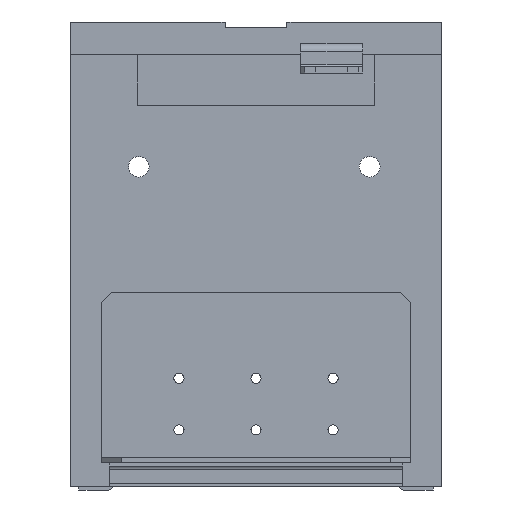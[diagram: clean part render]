
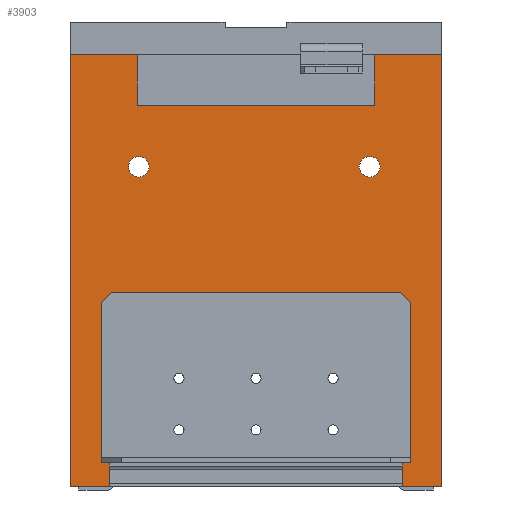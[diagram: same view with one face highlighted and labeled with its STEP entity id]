
A CAD part, left-side view. The second image highlights one B-rep face of the part: STEP entity #3903.
In plain terms, the highlighted planar face has unit normal (-1, 0, 0).
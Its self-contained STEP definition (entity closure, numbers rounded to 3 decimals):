
#1263=AXIS2_PLACEMENT_3D('Circle Axis2P3D',#1261,#1262,$) ;
#1289=AXIS2_PLACEMENT_3D('Circle Axis2P3D',#1287,#1288,$) ;
#1320=AXIS2_PLACEMENT_3D('Circle Axis2P3D',#1318,#1319,$) ;
#1346=AXIS2_PLACEMENT_3D('Circle Axis2P3D',#1344,#1345,$) ;
#3849=AXIS2_PLACEMENT_3D('Plane Axis2P3D',#3846,#3847,#3848) ;
#341=CARTESIAN_POINT('Vertex',(-418.1,-90.,209.18)) ;
#344=CARTESIAN_POINT('Line Origine',(-418.1,-90.,104.59)) ;
#348=CARTESIAN_POINT('Vertex',(-418.1,-90.,0.)) ;
#650=CARTESIAN_POINT('Vertex',(-418.1,71.,0.)) ;
#653=CARTESIAN_POINT('Line Origine',(-418.1,80.5,0.)) ;
#657=CARTESIAN_POINT('Vertex',(-418.1,90.,0.)) ;
#763=CARTESIAN_POINT('Vertex',(-418.1,71.,1.5)) ;
#766=CARTESIAN_POINT('Line Origine',(-418.1,71.,0.75)) ;
#907=CARTESIAN_POINT('Line Origine',(-418.1,0.,1.5)) ;
#911=CARTESIAN_POINT('Vertex',(-418.1,-71.,1.5)) ;
#949=CARTESIAN_POINT('Vertex',(-418.1,-71.,0.)) ;
#952=CARTESIAN_POINT('Line Origine',(-418.1,-71.,0.75)) ;
#982=CARTESIAN_POINT('Vertex',(-418.1,57.4,209.18)) ;
#985=CARTESIAN_POINT('Line Origine',(-418.1,57.4,196.93)) ;
#989=CARTESIAN_POINT('Vertex',(-418.1,57.4,184.68)) ;
#1040=CARTESIAN_POINT('Line Origine',(-418.1,0.,184.68)) ;
#1044=CARTESIAN_POINT('Vertex',(-418.1,-57.4,184.68)) ;
#1258=CARTESIAN_POINT('Vertex',(-418.1,56.759,159.9)) ;
#1261=CARTESIAN_POINT('Axis2P3D Location',(-418.1,56.759,154.9)) ;
#1265=CARTESIAN_POINT('Vertex',(-418.1,56.759,149.9)) ;
#1287=CARTESIAN_POINT('Axis2P3D Location',(-418.1,56.759,154.9)) ;
#1315=CARTESIAN_POINT('Vertex',(-418.1,-55.059,159.9)) ;
#1318=CARTESIAN_POINT('Axis2P3D Location',(-418.1,-55.059,154.9)) ;
#1322=CARTESIAN_POINT('Vertex',(-418.1,-55.059,149.9)) ;
#1344=CARTESIAN_POINT('Axis2P3D Location',(-418.1,-55.059,154.9)) ;
#1722=CARTESIAN_POINT('Vertex',(-418.1,75.,11.6)) ;
#1725=CARTESIAN_POINT('Line Origine',(-418.1,0.,11.6)) ;
#1729=CARTESIAN_POINT('Vertex',(-418.1,-75.,11.6)) ;
#1898=CARTESIAN_POINT('Vertex',(-418.1,-75.,89.1)) ;
#1922=CARTESIAN_POINT('Line Origine',(-418.1,-75.,50.35)) ;
#3050=CARTESIAN_POINT('Vertex',(-418.1,-70.,94.1)) ;
#3053=CARTESIAN_POINT('Line Origine',(-418.1,0.,94.1)) ;
#3057=CARTESIAN_POINT('Vertex',(-418.1,70.,94.1)) ;
#3077=CARTESIAN_POINT('Line Origine',(-418.1,-72.5,91.6)) ;
#3089=CARTESIAN_POINT('Line Origine',(-418.1,75.,50.35)) ;
#3093=CARTESIAN_POINT('Vertex',(-418.1,75.,89.1)) ;
#3115=CARTESIAN_POINT('Line Origine',(-418.1,72.5,91.6)) ;
#3597=CARTESIAN_POINT('Line Origine',(-418.1,-57.4,196.93)) ;
#3601=CARTESIAN_POINT('Vertex',(-418.1,-57.4,209.18)) ;
#3846=CARTESIAN_POINT('Axis2P3D Location',(-418.1,0.,209.18)) ;
#3851=CARTESIAN_POINT('Line Origine',(-418.1,73.7,209.18)) ;
#3855=CARTESIAN_POINT('Vertex',(-418.1,90.,209.18)) ;
#3858=CARTESIAN_POINT('Line Origine',(-418.1,90.,104.59)) ;
#3863=CARTESIAN_POINT('Line Origine',(-418.1,-80.5,0.)) ;
#3868=CARTESIAN_POINT('Line Origine',(-418.1,-73.7,209.18)) ;
#345=DIRECTION('Vector Direction',(0.,0.,-1.)) ;
#654=DIRECTION('Vector Direction',(0.,1.,0.)) ;
#767=DIRECTION('Vector Direction',(0.,0.,1.)) ;
#908=DIRECTION('Vector Direction',(0.,1.,0.)) ;
#953=DIRECTION('Vector Direction',(0.,0.,1.)) ;
#986=DIRECTION('Vector Direction',(0.,0.,-1.)) ;
#1041=DIRECTION('Vector Direction',(0.,1.,0.)) ;
#1262=DIRECTION('Axis2P3D Direction',(-1.,0.,0.)) ;
#1288=DIRECTION('Axis2P3D Direction',(-1.,0.,0.)) ;
#1319=DIRECTION('Axis2P3D Direction',(-1.,0.,0.)) ;
#1345=DIRECTION('Axis2P3D Direction',(-1.,0.,0.)) ;
#1726=DIRECTION('Vector Direction',(0.,1.,0.)) ;
#1923=DIRECTION('Vector Direction',(0.,0.,-1.)) ;
#3054=DIRECTION('Vector Direction',(0.,1.,0.)) ;
#3078=DIRECTION('Vector Direction',(0.,-0.707,-0.707)) ;
#3090=DIRECTION('Vector Direction',(0.,0.,-1.)) ;
#3116=DIRECTION('Vector Direction',(0.,0.707,-0.707)) ;
#3598=DIRECTION('Vector Direction',(0.,0.,1.)) ;
#3847=DIRECTION('Axis2P3D Direction',(1.,-0.,0.)) ;
#3848=DIRECTION('Axis2P3D XDirection',(0.,0.,-1.)) ;
#3852=DIRECTION('Vector Direction',(0.,1.,0.)) ;
#3859=DIRECTION('Vector Direction',(0.,0.,-1.)) ;
#3864=DIRECTION('Vector Direction',(0.,1.,0.)) ;
#3869=DIRECTION('Vector Direction',(0.,1.,0.)) ;
#346=VECTOR('Line Direction',#345,1.) ;
#655=VECTOR('Line Direction',#654,1.) ;
#768=VECTOR('Line Direction',#767,1.) ;
#909=VECTOR('Line Direction',#908,1.) ;
#954=VECTOR('Line Direction',#953,1.) ;
#987=VECTOR('Line Direction',#986,1.) ;
#1042=VECTOR('Line Direction',#1041,1.) ;
#1727=VECTOR('Line Direction',#1726,1.) ;
#1924=VECTOR('Line Direction',#1923,1.) ;
#3055=VECTOR('Line Direction',#3054,1.) ;
#3079=VECTOR('Line Direction',#3078,1.) ;
#3091=VECTOR('Line Direction',#3090,1.) ;
#3117=VECTOR('Line Direction',#3116,1.) ;
#3599=VECTOR('Line Direction',#3598,1.) ;
#3853=VECTOR('Line Direction',#3852,1.) ;
#3860=VECTOR('Line Direction',#3859,1.) ;
#3865=VECTOR('Line Direction',#3864,1.) ;
#3870=VECTOR('Line Direction',#3869,1.) ;
#3874=ORIENTED_EDGE('',*,*,#3603,.T.) ;
#3875=ORIENTED_EDGE('',*,*,#1046,.T.) ;
#3876=ORIENTED_EDGE('',*,*,#991,.T.) ;
#3877=ORIENTED_EDGE('',*,*,#3857,.T.) ;
#3878=ORIENTED_EDGE('',*,*,#3862,.F.) ;
#3879=ORIENTED_EDGE('',*,*,#659,.F.) ;
#3880=ORIENTED_EDGE('',*,*,#770,.T.) ;
#3881=ORIENTED_EDGE('',*,*,#913,.F.) ;
#3882=ORIENTED_EDGE('',*,*,#956,.F.) ;
#3883=ORIENTED_EDGE('',*,*,#3867,.F.) ;
#3884=ORIENTED_EDGE('',*,*,#350,.T.) ;
#3885=ORIENTED_EDGE('',*,*,#3872,.T.) ;
#3888=ORIENTED_EDGE('',*,*,#3059,.F.) ;
#3889=ORIENTED_EDGE('',*,*,#3081,.F.) ;
#3890=ORIENTED_EDGE('',*,*,#1926,.T.) ;
#3891=ORIENTED_EDGE('',*,*,#1731,.T.) ;
#3892=ORIENTED_EDGE('',*,*,#3095,.F.) ;
#3893=ORIENTED_EDGE('',*,*,#3119,.F.) ;
#3896=ORIENTED_EDGE('',*,*,#1291,.T.) ;
#3897=ORIENTED_EDGE('',*,*,#1267,.T.) ;
#3900=ORIENTED_EDGE('',*,*,#1348,.T.) ;
#3901=ORIENTED_EDGE('',*,*,#1324,.T.) ;
#3894=FACE_BOUND('',#3887,.T.) ;
#3898=FACE_BOUND('',#3895,.T.) ;
#3902=FACE_BOUND('',#3899,.T.) ;
#3903=ADVANCED_FACE('\X2\6A217EC4\X0\',(#3886,#3894,#3898,#3902),#3850,.F.) ;
#1264=CIRCLE('generated circle',#1263,5.) ;
#1290=CIRCLE('generated circle',#1289,5.) ;
#1321=CIRCLE('generated circle',#1320,5.) ;
#1347=CIRCLE('generated circle',#1346,5.) ;
#350=EDGE_CURVE('',#349,#342,#347,.F.) ;
#659=EDGE_CURVE('',#651,#658,#656,.T.) ;
#770=EDGE_CURVE('',#651,#764,#769,.T.) ;
#913=EDGE_CURVE('',#912,#764,#910,.T.) ;
#956=EDGE_CURVE('',#950,#912,#955,.T.) ;
#991=EDGE_CURVE('',#990,#983,#988,.F.) ;
#1046=EDGE_CURVE('',#1045,#990,#1043,.T.) ;
#1267=EDGE_CURVE('',#1266,#1259,#1264,.F.) ;
#1291=EDGE_CURVE('',#1259,#1266,#1290,.F.) ;
#1324=EDGE_CURVE('',#1323,#1316,#1321,.F.) ;
#1348=EDGE_CURVE('',#1316,#1323,#1347,.F.) ;
#1731=EDGE_CURVE('',#1730,#1723,#1728,.T.) ;
#1926=EDGE_CURVE('',#1899,#1730,#1925,.T.) ;
#3059=EDGE_CURVE('',#3051,#3058,#3056,.T.) ;
#3081=EDGE_CURVE('',#1899,#3051,#3080,.F.) ;
#3095=EDGE_CURVE('',#3094,#1723,#3092,.T.) ;
#3119=EDGE_CURVE('',#3058,#3094,#3118,.T.) ;
#3603=EDGE_CURVE('',#3602,#1045,#3600,.F.) ;
#3857=EDGE_CURVE('',#983,#3856,#3854,.T.) ;
#3862=EDGE_CURVE('',#658,#3856,#3861,.F.) ;
#3867=EDGE_CURVE('',#349,#950,#3866,.T.) ;
#3872=EDGE_CURVE('',#342,#3602,#3871,.T.) ;
#3873=EDGE_LOOP('',(#3874,#3875,#3876,#3877,#3878,#3879,#3880,#3881,#3882,#3883,#3884,#3885)) ;
#3887=EDGE_LOOP('',(#3888,#3889,#3890,#3891,#3892,#3893)) ;
#3895=EDGE_LOOP('',(#3896,#3897)) ;
#3899=EDGE_LOOP('',(#3900,#3901)) ;
#3886=FACE_OUTER_BOUND('',#3873,.T.) ;
#347=LINE('Line',#344,#346) ;
#656=LINE('Line',#653,#655) ;
#769=LINE('Line',#766,#768) ;
#910=LINE('Line',#907,#909) ;
#955=LINE('Line',#952,#954) ;
#988=LINE('Line',#985,#987) ;
#1043=LINE('Line',#1040,#1042) ;
#1728=LINE('Line',#1725,#1727) ;
#1925=LINE('Line',#1922,#1924) ;
#3056=LINE('Line',#3053,#3055) ;
#3080=LINE('Line',#3077,#3079) ;
#3092=LINE('Line',#3089,#3091) ;
#3118=LINE('Line',#3115,#3117) ;
#3600=LINE('Line',#3597,#3599) ;
#3854=LINE('Line',#3851,#3853) ;
#3861=LINE('Line',#3858,#3860) ;
#3866=LINE('Line',#3863,#3865) ;
#3871=LINE('Line',#3868,#3870) ;
#3850=PLANE('',#3849) ;
#342=VERTEX_POINT('',#341) ;
#349=VERTEX_POINT('',#348) ;
#651=VERTEX_POINT('',#650) ;
#658=VERTEX_POINT('',#657) ;
#764=VERTEX_POINT('',#763) ;
#912=VERTEX_POINT('',#911) ;
#950=VERTEX_POINT('',#949) ;
#983=VERTEX_POINT('',#982) ;
#990=VERTEX_POINT('',#989) ;
#1045=VERTEX_POINT('',#1044) ;
#1259=VERTEX_POINT('',#1258) ;
#1266=VERTEX_POINT('',#1265) ;
#1316=VERTEX_POINT('',#1315) ;
#1323=VERTEX_POINT('',#1322) ;
#1723=VERTEX_POINT('',#1722) ;
#1730=VERTEX_POINT('',#1729) ;
#1899=VERTEX_POINT('',#1898) ;
#3051=VERTEX_POINT('',#3050) ;
#3058=VERTEX_POINT('',#3057) ;
#3094=VERTEX_POINT('',#3093) ;
#3602=VERTEX_POINT('',#3601) ;
#3856=VERTEX_POINT('',#3855) ;
